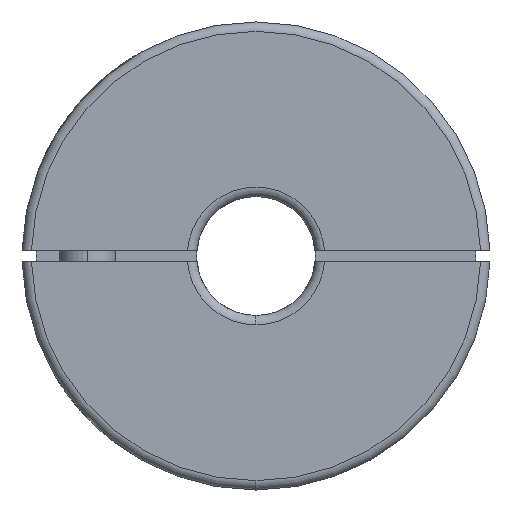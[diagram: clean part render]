
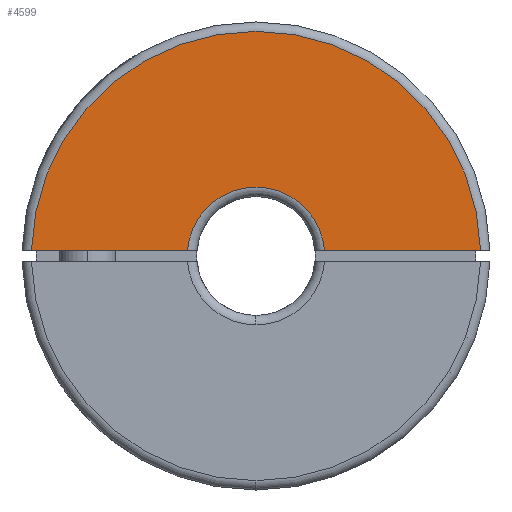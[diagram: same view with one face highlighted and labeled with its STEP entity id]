
A CAD part, left-side view. The second image highlights one B-rep face of the part: STEP entity #4599.
In plain terms, the highlighted planar face has unit normal (-1, 0, 0).
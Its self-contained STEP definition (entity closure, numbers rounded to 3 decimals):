
#2244 = CARTESIAN_POINT ( 'NONE',  ( -18.25, -3.663, 0.3 ) ) ;
#2257 = CARTESIAN_POINT ( 'NONE',  ( -18.25, -11.996, 0.3 ) ) ;
#2448 = DIRECTION ( 'NONE',  ( 0., 1., 0. ) ) ;
#2449 = VECTOR ( 'NONE', #2448, 1000. ) ;
#2466 = DIRECTION ( 'NONE',  ( 0., 0., -1. ) ) ;
#2467 = DIRECTION ( 'NONE',  ( 1., 0., 0. ) ) ;
#2468 = CARTESIAN_POINT ( 'NONE',  ( -18.25, 12.5, 0. ) ) ;
#2469 = AXIS2_PLACEMENT_3D ( 'NONE', #2468, #2467, #2466 ) ;
#2470 = PLANE ( 'NONE',  #2469 ) ;
#2471 = FACE_OUTER_BOUND ( 'NONE', #4892, .T. ) ;
#2502 = DIRECTION ( 'NONE',  ( 0., 0., -1. ) ) ;
#2503 = DIRECTION ( 'NONE',  ( -1., 0., 0. ) ) ;
#2504 = CARTESIAN_POINT ( 'NONE',  ( -18.25, 0., 0. ) ) ;
#2505 = AXIS2_PLACEMENT_3D ( 'NONE', #2504, #2503, #2502 ) ;
#2506 = CIRCLE ( 'NONE', #2505, 12. ) ;
#2508 = CARTESIAN_POINT ( 'NONE',  ( -18.25, 3.663, 0.3 ) ) ;
#2530 = DIRECTION ( 'NONE',  ( 0., 0., -1. ) ) ;
#2531 = DIRECTION ( 'NONE',  ( 1., 0., 0. ) ) ;
#2532 = CARTESIAN_POINT ( 'NONE',  ( -18.25, 0., 0. ) ) ;
#2533 = AXIS2_PLACEMENT_3D ( 'NONE', #2532, #2531, #2530 ) ;
#2534 = CIRCLE ( 'NONE', #2533, 3.675 ) ;
#2545 = CARTESIAN_POINT ( 'NONE',  ( -18.25, 12.5, 0.3 ) ) ;
#2546 = LINE ( 'NONE', #2545, #2449 ) ;
#2548 = CARTESIAN_POINT ( 'NONE',  ( -18.25, 11.996, 0.3 ) ) ;
#2549 = DIRECTION ( 'NONE',  ( 0., 1., 0. ) ) ;
#2550 = VECTOR ( 'NONE', #2549, 1000. ) ;
#2551 = CARTESIAN_POINT ( 'NONE',  ( -18.25, 12.5, 0.3 ) ) ;
#2552 = LINE ( 'NONE', #2551, #2550 ) ;
#4515 = VERTEX_POINT ( 'NONE', #2257 ) ;
#4521 = VERTEX_POINT ( 'NONE', #2244 ) ;
#4588 = EDGE_CURVE ( 'NONE', #4515, #4621, #2506, .T. ) ;
#4590 = ORIENTED_EDGE ( 'NONE', *, *, #4591, .T. ) ;
#4591 = EDGE_CURVE ( 'NONE', #4618, #4521, #2534, .T. ) ;
#4592 = ORIENTED_EDGE ( 'NONE', *, *, #4626, .F. ) ;
#4599 = ADVANCED_FACE ( 'NONE', ( #2471 ), #2470, .F. ) ;
#4618 = VERTEX_POINT ( 'NONE', #2508 ) ;
#4620 = EDGE_CURVE ( 'NONE', #4618, #4621, #2552, .T. ) ;
#4621 = VERTEX_POINT ( 'NONE', #2548 ) ;
#4626 = EDGE_CURVE ( 'NONE', #4515, #4521, #2546, .T. ) ;
#4889 = ORIENTED_EDGE ( 'NONE', *, *, #4620, .F. ) ;
#4892 = EDGE_LOOP ( 'NONE', ( #4889, #4590, #4592, #4936 ) ) ;
#4936 = ORIENTED_EDGE ( 'NONE', *, *, #4588, .T. ) ;
